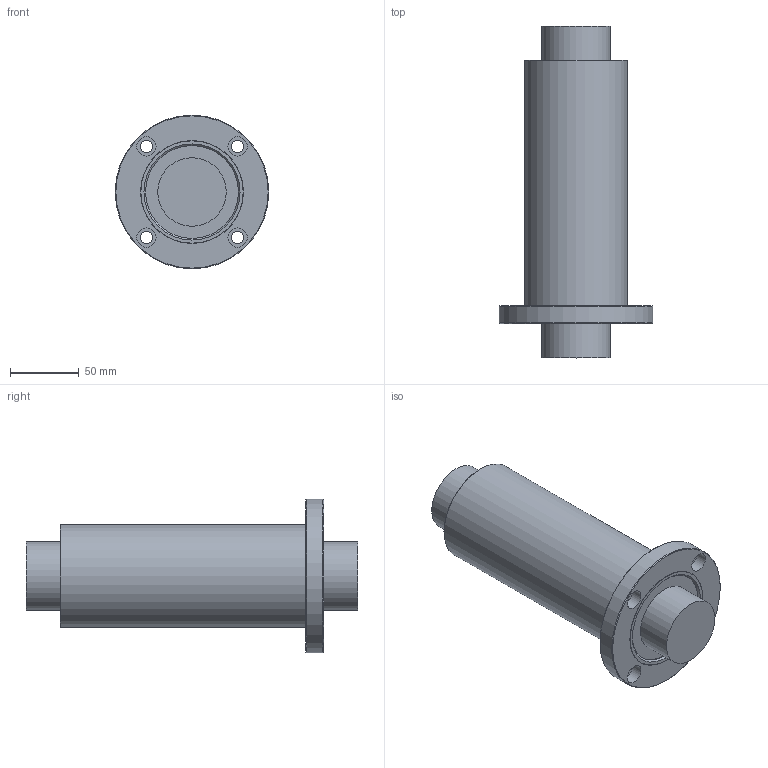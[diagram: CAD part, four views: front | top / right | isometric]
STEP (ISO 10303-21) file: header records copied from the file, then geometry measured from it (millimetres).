
FILE_DESCRIPTION((''),'2;1');
FILE_NAME('D:\STEP\EUROPE\BLANK\LMEF L\LMEF50L.stp','2013-02-05T17:59:25',('user2'),(''),'Autodesk Inventor 2012','Autodesk Inventor 2012','');
FILE_SCHEMA(('AUTOMOTIVE_DESIGN { 1 0 10303 214 1 1 1 1 }'));
Length unit declared in the file: millimetre
Products named in the file (1): LMEF50L
Bounding box: 112 x 242 x 112 mm (x, y, z)
Volume: 1004669.1 mm3; surface area: 76618.7 mm2
Topology: 1 solids, 1 shells, 33 faces, 59 edges, 38 vertices
Faces by surface type: cylinder 15, plane 12, cone 4, torus 2
Full cylindrical faces by diameter (mm): 9 x4, 14 x4, 50 x2, 67.7 x2, 75 x2, 112 x1
Entity records: 736 total; most frequent: DIRECTION 140, CARTESIAN_POINT 106, ORIENTED_EDGE 72, EDGE_LOOP 72, AXIS2_PLACEMENT_3D 70, FACE_BOUND 39, VERTEX_POINT 36, CIRCLE 36
